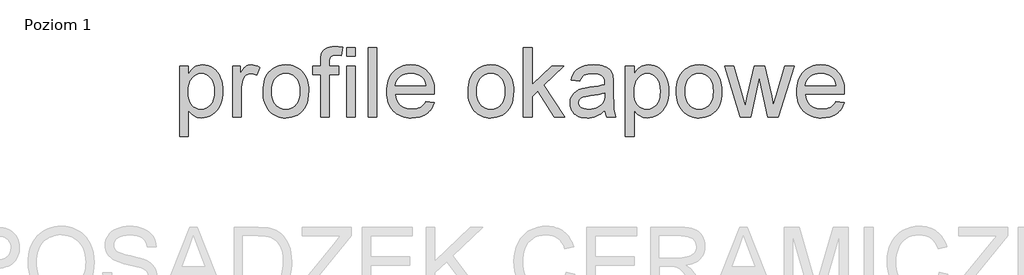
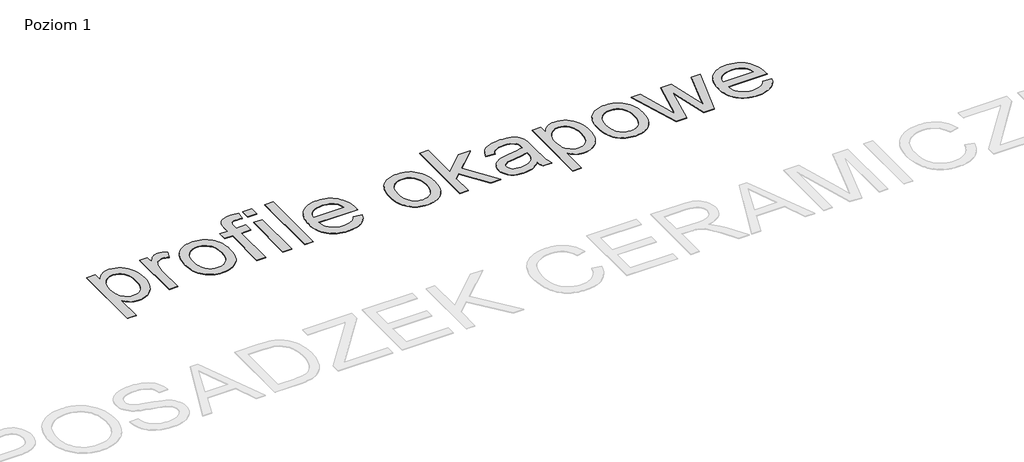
# One storey, part 3 of 4: 1 proxy.
"""IFC4 building model written with IfcOpenShell, lengths in millimetres."""

from ifc_helpers import new_model, si_unit, origin, origin_with_axes, place, context, project, spatial, polyline, outline, extrude, element, save

model = new_model("IFC4")

# Units and contexts
model_context = context("Model", 3, world=origin())
ifc_project = project(units=[si_unit("LENGTHUNIT", "METRE", prefix="MILLI")], contexts=[model_context])

# Site, building, storey
site = spatial("IfcSite", under=ifc_project)
building = spatial("IfcBuilding", under=site)
storey = spatial("IfcBuildingStorey", under=building, Name="Poziom 1", Elevation=0.0)

# Proxy
placement = place(None, origin())
element("IfcBuildingElementProxy", 1, Name="1500 mm Arial", ObjectType="1500 mm Arial", at=placement, inside=storey, context=model_context, shape_type="SweptSolid", body=[
    extrude(outline(polyline([(-108482.4896244, 72634.1293934), (-108482.4896244, 74164.5184934), (-108294.1340429, 74164.5184934), (-108294.1340429, 73979.8417318), (-108264.3356012, 74028.6435777), (-108232.6977497, 74070.9385108), (-108199.2204881, 74106.7265312), (-108163.9038166, 74136.0076387), (-108125.7360596, 74158.7818335), (-108083.7055416, 74175.0491155), (-108037.8122627, 74184.8094847), (-107988.0562229, 74188.062941), (-107922.3662941, 74183.5104014), (-107860.677082, 74169.8527823), (-107802.9885867, 74147.0900838), (-107749.300808, 74115.222306), (-107700.7863699, 74075.0771833), (-107658.6178962, 74027.4824502), (-107622.7953869, 73972.4381066), (-107593.318842, 73909.9441527), (-107570.3032247, 73842.1389025), (-107553.8634981, 73771.16067), (-107543.9996621, 73697.0094554), (-107540.7117167, 73619.6852585), (-107544.4250256, 73537.0152764), (-107555.5649523, 73458.5989299), (-107574.1314967, 73384.4362189), (-107600.124659, 73314.5271435), (-107633.1880533, 73250.6996173), (-107672.965294, 73194.7815541), (-107719.4563811, 73146.7729537), (-107772.6613147, 73106.6738162), (-107829.9704317, 73075.047461), (-107888.7740694, 73052.4572072), (-107949.0722277, 73038.9030549), (-108010.8649066, 73034.3850042), (-108055.3211464, 73037.4085343), (-108097.4551312, 73046.4791248), (-108137.2668608, 73061.5967755), (-108174.7563354, 73082.7614865), (-108209.4637024, 73108.5477151), (-108240.9291093, 73137.5299186), (-108269.1525561, 73169.7080968), (-108294.1340429, 73205.0822499), (-108294.1340429, 72634.1293934), (-108482.4896244, 72634.1293934)]), holes=[polyline([(-108294.1340429, 73602.3948047), (-108289.0411765, 73511.6199224), (-108273.7625774, 73433.5369689), (-108262.303628, 73399.2549655), (-108248.2982455, 73368.1459443), (-108231.7464298, 73340.2099053), (-108212.6481809, 73315.4468485), (-108169.7324469, 73274.8878585), (-108122.4711069, 73245.9171514), (-108070.8641607, 73228.5347271), (-108014.9116085, 73222.7405857), (-107958.1543144, 73228.7416608), (-107931.3535363, 73236.2430046), (-107905.6046707, 73246.7448859), (-107857.2626773, 73276.7502611), (-107813.1283342, 73318.7577864), (-107793.4265289, 73344.4118075), (-107776.351631, 73373.3652701), (-107761.9036404, 73405.6181744), (-107750.0825572, 73441.1705203), (-107740.8883814, 73480.0223079), (-107734.321113, 73522.1735372), (-107729.0672983, 73616.3743205), (-107734.1946536, 73706.3674536), (-107749.5767195, 73784.3124513), (-107761.1132689, 73818.7668995), (-107775.213496, 73850.2093137), (-107791.8774008, 73878.6396942), (-107811.1049832, 73904.0580408), (-107854.124184, 73945.9046177), (-107901.1441015, 73975.7950298), (-107952.1647357, 73993.7292771), (-108007.1860866, 73999.7073595), (-108035.0157847, 73998.1179943), (-108062.0349928, 73993.3498988), (-108088.2437109, 73985.4030729), (-108113.641939, 73974.2775166), (-108162.006925, 73942.490213), (-108207.129951, 73897.9879879), (-108227.521535, 73871.1182318), (-108245.1942412, 73841.3686495), (-108260.1480695, 73808.739241), (-108272.3830199, 73773.2300062), (-108281.8990924, 73734.8409452), (-108288.6962871, 73693.572058), (-108294.1340429, 73602.3948047)])]), origin_with_axes(), (0.0, 0.0, 1.0), 10.0),
    extrude(outline(polyline([(-107328.8116875, 73057.9294519), (-107328.8116875, 74164.5184934), (-107164.0005537, 74164.5184934), (-107164.0005537, 74000.8110055), (-107132.9605103, 74053.1422193), (-107103.1160835, 74095.7245603), (-107074.4672731, 74128.5580283), (-107047.0140792, 74151.6426235), (-107019.5149001, 74167.5765124), (-106990.7281339, 74178.9578617), (-106960.6537808, 74185.7866712), (-106929.2918407, 74188.062941), (-106882.5708274, 74184.4301063), (-106835.481932, 74173.5316022), (-106788.0251546, 74155.3674287), (-106740.2004952, 74129.9375858), (-106803.1083164, 73961.07975), (-106836.217696, 73977.9793292), (-106869.3270755, 73990.0504571), (-106902.4364551, 73997.2931339), (-106935.5458347, 73999.7073595), (-106964.413075, 73997.3851044), (-106991.7857947, 73990.4183391), (-107017.6639938, 73978.8070637), (-107042.0476723, 73962.551278), (-107064.0171252, 73942.1798125), (-107082.6526475, 73918.2214976), (-107097.9542392, 73890.6763332), (-107109.9219004, 73859.5443194), (-107123.2806153, 73808.1328105), (-107132.8225546, 73754.3300687), (-107138.5477181, 73698.136094), (-107140.456106, 73639.5508862), (-107140.456106, 73057.9294519), (-107328.8116875, 73057.9294519)])), origin_with_axes(), (0.0, 0.0, 1.0), 10.0),
    extrude(outline(polyline([(-106669.5671522, 73611.2239726), (-106667.020719, 73685.3579428), (-106659.3814194, 73754.5370024), (-106646.6492535, 73818.7611513), (-106628.8242212, 73878.0303896), (-106605.9063225, 73932.3447173), (-106577.8955575, 73981.7041344), (-106544.7919261, 74026.1086408), (-106506.5954283, 74065.5582367), (-106471.6351424, 74094.2702767), (-106434.812454, 74119.1540448), (-106396.1273629, 74140.2095409), (-106355.5798693, 74157.436765), (-106313.169973, 74170.835717), (-106268.8976742, 74180.406397), (-106222.7629727, 74186.148805), (-106174.7658686, 74188.062941), (-106121.5638092, 74185.7320637), (-106070.8507013, 74178.7394317), (-106022.6265451, 74167.0850451), (-105976.8913405, 74150.7689038), (-105933.6450875, 74129.7910078), (-105892.8877861, 74104.1513572), (-105854.6194364, 74073.8499519), (-105818.8400383, 74038.886792), (-105786.4635487, 73999.8137004), (-105758.4039243, 73957.1825001), (-105734.6611652, 73910.9931912), (-105715.2352714, 73861.2457736), (-105700.1262429, 73807.9402473), (-105689.3340797, 73751.0766123), (-105682.8587818, 73690.6548687), (-105680.7003491, 73626.6750164), (-105684.5171248, 73525.8523571), (-105695.9674519, 73436.3880544), (-105715.0513304, 73358.2821083), (-105741.7687603, 73291.5345188), (-105775.7863486, 73233.8805124), (-105816.7707021, 73183.0553155), (-105864.7218209, 73139.0589281), (-105919.639705, 73101.8913503), (-105979.3860403, 73072.3573239), (-106041.8225126, 73051.2615907), (-106106.9491221, 73038.6041508), (-106174.7658686, 73034.3850042), (-106228.8071589, 73036.7072593), (-106280.1985492, 73043.6740246), (-106328.9400395, 73055.2853), (-106375.0316298, 73071.5410857), (-106418.4733201, 73092.4413815), (-106459.2651103, 73117.9861876), (-106497.4070006, 73148.1755038), (-106532.8989909, 73183.0093302), (-106564.9305912, 73222.2117553), (-106592.6913115, 73265.5068676), (-106616.1811517, 73312.8946671), (-106635.4001118, 73364.3751538), (-106650.348192, 73419.9483277), (-106661.0253921, 73479.6141888), (-106667.4317121, 73543.3727371), (-106669.5671522, 73611.2239726)]), holes=[polyline([(-106481.2115706, 73611.5918546), (-106475.7623186, 73520.2306604), (-106468.9507535, 73479.1457141), (-106459.4145624, 73441.1245351), (-106447.1537453, 73406.1671233), (-106432.1683021, 73374.2734788), (-106414.458233, 73345.4436015), (-106394.0235378, 73319.6774914), (-106371.5252545, 73296.9579042), (-106347.6244211, 73277.2675952), (-106322.3210376, 73260.6065645), (-106295.6151041, 73246.9748121), (-106267.5066204, 73236.3723381), (-106237.9955866, 73228.7991423), (-106174.7658686, 73222.7405857), (-106111.8580475, 73228.8336313), (-106082.4734731, 73236.4499382), (-106054.4684562, 73247.1127679), (-106027.8429968, 73260.8221204), (-106002.5970949, 73277.5779956), (-105978.7307505, 73297.3803936), (-105956.2439635, 73320.2293144), (-105935.8092683, 73346.199484), (-105918.0991991, 73375.3656285), (-105903.113756, 73407.7277477), (-105890.8529389, 73443.2858418), (-105881.3167478, 73482.0399107), (-105874.5051827, 73523.9899545), (-105869.0559306, 73617.4779665), (-105874.5396716, 73705.9420901), (-105881.3943479, 73745.8889014), (-105890.9908946, 73782.9788791), (-105903.3293118, 73817.2120232), (-105918.4095996, 73848.5883337), (-105936.2317578, 73877.1078105), (-105956.7957865, 73902.7704538), (-106003.3213626, 73945.18035), (-106028.5758867, 73961.8413807), (-106055.158235, 73975.4731331), (-106083.0684073, 73986.0756072), (-106112.3064036, 73993.6488029), (-106174.7658686, 73999.7073595), (-106237.9955866, 73993.6717955), (-106267.5066204, 73986.1273406), (-106295.6151041, 73975.5651036), (-106322.3210376, 73961.9850846), (-106347.6244211, 73945.3872837), (-106371.5252545, 73925.7717007), (-106394.0235378, 73903.1383358), (-106414.458233, 73877.4584481), (-106432.1683021, 73848.7032968), (-106447.1537453, 73816.872882), (-106459.4145624, 73781.9672036), (-106468.9507535, 73743.9862617), (-106475.7623186, 73702.9300562), (-106481.2115706, 73611.5918546)])]), origin_with_axes(), (0.0, 0.0, 1.0), 10.0),
    extrude(outline(polyline([(-105421.7114245, 73057.9294519), (-105421.7114245, 73976.1629118), (-105586.5225584, 73976.1629118), (-105586.5225584, 74164.5184934), (-105421.7114245, 74164.5184934), (-105421.7114245, 74275.9867379), (-105416.7450176, 74368.2331482), (-105410.5370089, 74404.0786501), (-105401.8457968, 74433.0723498), (-105385.475048, 74466.020781), (-105363.9539513, 74495.7042595), (-105337.2825066, 74522.1227853), (-105305.460714, 74545.2763584), (-105267.7987948, 74564.107318), (-105223.6069701, 74577.5580034), (-105172.88524, 74585.6284147), (-105115.6336045, 74588.3185518), (-105033.8718311, 74583.1682039), (-104943.8327128, 74567.7171601), (-104971.4238624, 74391.1338024), (-105027.2499552, 74397.7556783), (-105079.949051, 74399.9629703), (-105118.818083, 74398.0085972), (-105151.5480843, 74392.1454779), (-105178.1390548, 74382.3736124), (-105198.5909944, 74368.6930007), (-105213.8006157, 74349.6781001), (-105224.6646308, 74323.9033678), (-105231.1830399, 74291.3688038), (-105233.355843, 74252.0744082), (-105233.355843, 74164.5184934), (-105021.4558138, 74164.5184934), (-105021.4558138, 73976.1629118), (-105233.355843, 73976.1629118), (-105233.355843, 73057.9294519), (-105421.7114245, 73057.9294519)])), origin_with_axes(), (0.0, 0.0, 1.0), 10.0),
    extrude(outline(polyline([(-104856.6446799, 73057.9294519), (-104856.6446799, 74164.5184934), (-104668.2890984, 74164.5184934), (-104668.2890984, 73057.9294519), (-104856.6446799, 73057.9294519)])), origin_with_axes(), (0.0, 0.0, 1.0), 10.0),
    extrude(outline(polyline([(-104856.6446799, 74376.4185226), (-104856.6446799, 74564.7741041), (-104668.2890984, 74564.7741041), (-104668.2890984, 74376.4185226), (-104856.6446799, 74376.4185226)])), origin_with_axes(), (0.0, 0.0, 1.0), 10.0),
    extrude(outline(polyline([(-104385.7557261, 73057.9294519), (-104385.7557261, 74564.7741041), (-104197.4001446, 74564.7741041), (-104197.4001446, 73057.9294519), (-104385.7557261, 73057.9294519)])), origin_with_axes(), (0.0, 0.0, 1.0), 10.0),
    extrude(outline(polyline([(-103140.1072904, 73387.5517195), (-102955.4305288, 73364.0072719), (-102983.7459462, 73290.0399982), (-103001.6198378, 73256.3500549), (-103021.9711847, 73224.8559072), (-103044.799987, 73195.5575552), (-103070.1062445, 73168.4549988), (-103097.8899574, 73143.5482381), (-103128.1511256, 73120.837273), (-103160.740297, 73100.5750225), (-103195.5080196, 73083.0144054), (-103232.4542934, 73068.1554217), (-103271.5791185, 73055.9980714), (-103356.364422, 73039.788271), (-103449.8639304, 73034.3850042), (-103509.8919253, 73036.7158815), (-103566.7354417, 73043.7085135), (-103620.3944796, 73055.3629001), (-103670.869039, 73071.6790414), (-103718.1591198, 73092.6569374), (-103762.2647221, 73118.296588), (-103803.185846, 73148.5979933), (-103840.9224912, 73183.5611532), (-103874.8078719, 73222.7319635), (-103904.1752018, 73265.6563197), (-103929.0244809, 73312.3342219), (-103949.3557093, 73362.7656701), (-103965.168887, 73416.9506643), (-103976.4640138, 73474.8892045), (-103983.24109, 73536.5812906), (-103985.5001153, 73602.0269227), (-103983.2180973, 73669.6999654), (-103976.3720433, 73733.4757581), (-103964.9619533, 73793.354301), (-103948.9878273, 73849.335594), (-103928.4496653, 73901.4196371), (-103903.3474673, 73949.6064303), (-103873.6812333, 73993.8959736), (-103839.4509633, 74034.2882671), (-103801.5821104, 74070.3292063), (-103761.0001278, 74101.5646869), (-103717.7050155, 74127.994709), (-103671.6967735, 74149.6192726), (-103622.9754017, 74166.4383775), (-103571.5409003, 74178.4520239), (-103517.3932691, 74185.6602118), (-103460.5325082, 74188.062941), (-103405.5312759, 74185.6659599), (-103353.0994693, 74178.4750166), (-103303.2370886, 74166.4901109), (-103255.9441337, 74149.7112431), (-103211.2206045, 74128.1384129), (-103169.0665012, 74101.7716206), (-103129.4818237, 74070.6108659), (-103092.466572, 74034.6561491), (-103058.9691919, 73994.3558261), (-103029.9381292, 73950.1582533), (-103005.3733838, 73902.0634306), (-102985.2749557, 73850.071358), (-102969.642845, 73794.1820355), (-102958.4770516, 73734.3954631), (-102951.7775756, 73670.7116409), (-102949.5444169, 73603.1305687), (-102950.6480629, 73552.3628534), (-103797.1445338, 73552.3628534), (-103786.2345334, 73477.1999632), (-103776.7357053, 73443.1191453), (-103764.540992, 73411.3720787), (-103749.6503934, 73381.9587636), (-103732.0639096, 73354.8791998), (-103711.7815405, 73330.1333875), (-103688.8032862, 73307.7213266), (-103637.1503548, 73270.5422525), (-103579.4963484, 73243.9857709), (-103515.8412669, 73228.051882), (-103446.1851104, 73222.7405857), (-103394.0838228, 73225.2007965), (-103345.9372667, 73232.5814291), (-103301.7454421, 73244.8824833), (-103261.5083488, 73262.1039592), (-103225.2259871, 73284.7057093), (-103192.8983567, 73313.147586), (-103164.5254579, 73347.4295894), (-103140.1072904, 73387.5517195)]), holes=[polyline([(-103797.1445338, 73740.7184349), (-103137.8999985, 73740.7184349), (-103147.5798935, 73794.015339), (-103163.3758266, 73840.2305146), (-103185.287798, 73879.3639618), (-103213.3158075, 73911.4156807), (-103238.1133532, 73932.1090429), (-103264.681331, 73950.0432902), (-103293.019741, 73965.2184225), (-103323.128583, 73977.6344398), (-103388.6575634, 73994.1891296), (-103461.2682722, 73999.7073595), (-103527.4985277, 73995.3042719), (-103588.2335458, 73982.095009), (-103643.4733266, 73960.0795709), (-103693.2178702, 73929.2579574), (-103734.9609803, 73891.0557115), (-103766.196461, 73846.8983758), (-103786.9243121, 73796.7859502), (-103797.1445338, 73740.7184349)])]), origin_with_axes(), (0.0, 0.0, 1.0), 10.0),
    extrude(outline(polyline([(-102219.6665385, 73611.2239726), (-102217.1201053, 73685.3579428), (-102209.4808058, 73754.5370024), (-102196.7486398, 73818.7611513), (-102178.9236075, 73878.0303896), (-102156.0057089, 73932.3447173), (-102127.9949438, 73981.7041344), (-102094.8913124, 74026.1086408), (-102056.6948146, 74065.5582367), (-102021.7345288, 74094.2702767), (-101984.9118403, 74119.1540448), (-101946.2267493, 74140.2095409), (-101905.6792556, 74157.436765), (-101863.2693594, 74170.835717), (-101818.9970605, 74180.406397), (-101772.862359, 74186.148805), (-101724.865255, 74188.062941), (-101671.6631955, 74185.7320637), (-101620.9500877, 74178.7394317), (-101572.7259314, 74167.0850451), (-101526.9907268, 74150.7689038), (-101483.7444738, 74129.7910078), (-101442.9871725, 74104.1513572), (-101404.7188228, 74073.8499519), (-101368.9394246, 74038.886792), (-101336.562935, 73999.8137004), (-101308.5033106, 73957.1825001), (-101284.7605515, 73910.9931912), (-101265.3346578, 73861.2457736), (-101250.2256292, 73807.9402473), (-101239.433466, 73751.0766123), (-101232.9581681, 73690.6548687), (-101230.7997355, 73626.6750164), (-101234.6165112, 73525.8523571), (-101246.0668383, 73436.3880544), (-101265.1507168, 73358.2821083), (-101291.8681467, 73291.5345188), (-101325.8857349, 73233.8805124), (-101366.8700884, 73183.0553155), (-101414.8212072, 73139.0589281), (-101469.7390913, 73101.8913503), (-101529.4854266, 73072.3573239), (-101591.921899, 73051.2615907), (-101657.0485084, 73038.6041508), (-101724.865255, 73034.3850042), (-101778.9065453, 73036.7072593), (-101830.2979355, 73043.6740246), (-101879.0394258, 73055.2853), (-101925.1310161, 73071.5410857), (-101968.5727064, 73092.4413815), (-102009.3644967, 73117.9861876), (-102047.506387, 73148.1755038), (-102082.9983773, 73183.0093302), (-102115.0299776, 73222.2117553), (-102142.7906978, 73265.5068676), (-102166.280538, 73312.8946671), (-102185.4994982, 73364.3751538), (-102200.4475783, 73419.9483277), (-102211.1247784, 73479.6141888), (-102217.5310985, 73543.3727371), (-102219.6665385, 73611.2239726)]), holes=[polyline([(-102031.310957, 73611.5918546), (-102025.8617049, 73520.2306604), (-102019.0501398, 73479.1457141), (-102009.5139487, 73441.1245351), (-101997.2531316, 73406.1671233), (-101982.2676885, 73374.2734788), (-101964.5576193, 73345.4436015), (-101944.1229241, 73319.6774914), (-101921.6246408, 73296.9579042), (-101897.7238075, 73277.2675952), (-101872.420424, 73260.6065645), (-101845.7144904, 73246.9748121), (-101817.6060067, 73236.3723381), (-101788.0949729, 73228.7991423), (-101724.865255, 73222.7405857), (-101661.9574338, 73228.8336313), (-101632.5728594, 73236.4499382), (-101604.5678426, 73247.1127679), (-101577.9423832, 73260.8221204), (-101552.6964812, 73277.5779956), (-101528.8301368, 73297.3803936), (-101506.3433498, 73320.2293144), (-101485.9086546, 73346.199484), (-101468.1985855, 73375.3656285), (-101453.2131423, 73407.7277477), (-101440.9523252, 73443.2858418), (-101431.4161341, 73482.0399107), (-101424.604569, 73523.9899545), (-101419.155317, 73617.4779665), (-101424.639058, 73705.9420901), (-101431.4937342, 73745.8889014), (-101441.090281, 73782.9788791), (-101453.4286982, 73817.2120232), (-101468.5089859, 73848.5883337), (-101486.3311441, 73877.1078105), (-101506.8951728, 73902.7704538), (-101553.4207489, 73945.18035), (-101578.6752731, 73961.8413807), (-101605.2576213, 73975.4731331), (-101633.1677936, 73986.0756072), (-101662.40579, 73993.6488029), (-101724.865255, 73999.7073595), (-101788.0949729, 73993.6717955), (-101817.6060067, 73986.1273406), (-101845.7144904, 73975.5651036), (-101872.420424, 73961.9850846), (-101897.7238075, 73945.3872837), (-101921.6246408, 73925.7717007), (-101944.1229241, 73903.1383358), (-101964.5576193, 73877.4584481), (-101982.2676885, 73848.7032968), (-101997.2531316, 73816.872882), (-102009.5139487, 73781.9672036), (-102019.0501398, 73743.9862617), (-102025.8617049, 73702.9300562), (-102031.310957, 73611.5918546)])]), origin_with_axes(), (0.0, 0.0, 1.0), 10.0),
    extrude(outline(polyline([(-101018.8997062, 73057.9294519), (-101018.8997062, 74564.7741041), (-100830.5441247, 74564.7741041), (-100830.5441247, 73755.0658327), (-100408.2155942, 74164.5184934), (-100147.7551417, 74164.5184934), (-100575.2340201, 73749.9154848), (-100124.210694, 73057.9294519), (-100344.2041271, 73057.9294519), (-100710.2467123, 73618.9494945), (-100830.5441247, 73502.330902), (-100830.5441247, 73057.9294519), (-101018.8997062, 73057.9294519)])), origin_with_axes(), (0.0, 0.0, 1.0), 10.0),
    extrude(outline(polyline([(-99253.0661294, 73199.196138), (-99297.7293029, 73157.2805832), (-99343.0592625, 73122.0328895), (-99389.0560082, 73093.453057), (-99435.71954, 73071.5410857), (-99483.5786883, 73055.2853), (-99533.1622835, 73043.6740246), (-99584.4703255, 73036.7072593), (-99637.5028143, 73034.3850042), (-99721.3684129, 73039.972212), (-99759.429829, 73046.9562217), (-99794.910323, 73056.7338354), (-99827.8098949, 73069.3050529), (-99858.1285446, 73084.6698744), (-99885.8662723, 73102.8282997), (-99911.0230778, 73123.780329), (-99933.3977757, 73146.9051613), (-99952.7891805, 73171.5819958), (-99969.1972923, 73197.8108324), (-99982.6221111, 73225.5916712), (-99993.0636368, 73254.9245121), (-100000.5218694, 73285.8093553), (-100006.4884555, 73352.235048), (-100004.2351783, 73392.1732371), (-99997.4753466, 73430.3180015), (-99986.2089605, 73466.6693411), (-99970.43602, 73501.2272561), (-99950.9957558, 73533.2329896), (-99928.7273988, 73561.9277853), (-99903.6309489, 73587.3116429), (-99875.7064062, 73609.3845626), (-99813.3963933, 73645.2530572), (-99743.820711, 73671.1887378), (-99676.0384533, 73685.6281061), (-99580.8489871, 73699.5156515), (-99477.2442202, 73713.7710788), (-99388.2627626, 73729.3140931), (-99313.9046143, 73746.1446943), (-99254.1697754, 73764.2628826), (-99253.0661294, 73806.2014301), (-99256.3080895, 73851.8647827), (-99266.0339697, 73890.262466), (-99282.2437701, 73921.3944798), (-99304.9374907, 73945.2608242), (-99344.1629084, 73969.0811834), (-99391.9415826, 73986.0957257), (-99448.2735131, 73996.3044511), (-99513.1587, 73999.7073595), (-99573.4913472, 73997.442586), (-99625.3627085, 73990.6482654), (-99668.7727839, 73979.3243977), (-99703.7215735, 73963.470983), (-99732.4393617, 73941.8464195), (-99757.1564333, 73913.2091054), (-99777.8727881, 73877.5590408), (-99794.5884263, 73834.8962257), (-99982.9440078, 73858.4406734), (-99968.6081063, 73912.7032677), (-99950.2484955, 73961.447632), (-99927.8651754, 74004.6737665), (-99901.4581459, 74042.381671), (-99869.8892722, 74075.3301022), (-99832.0204193, 74104.2778166), (-99787.8515873, 74129.2248144), (-99737.382776, 74150.1710955), (-99681.6371575, 74166.748778), (-99621.6379033, 74178.5899797), (-99557.3850136, 74185.6947007), (-99488.8784883, 74188.062941), (-99421.9124689, 74185.9706122), (-99361.5453327, 74179.6936257), (-99307.7770799, 74169.2319814), (-99260.6077103, 74154.5856795), (-99219.6463494, 74136.7778917), (-99184.5021225, 74116.8317897), (-99155.1750297, 74094.7473737), (-99131.665071, 74070.5246436), (-99112.6041851, 74043.5657911), (-99096.6243109, 74013.2730081), (-99083.7254485, 73979.6462945), (-99073.9075977, 73942.6856503), (-99067.0098103, 73877.5705371), (-99064.7105479, 73777.8745164), (-99064.7105479, 73543.5336855), (-99062.3193149, 73339.4051634), (-99055.145616, 73216.3026508), (-99040.9821592, 73135.4145971), (-99017.6216525, 73057.9294519), (-99205.977234, 73057.9294519), (-99222.7158648, 73089.3833625), (-99236.1435576, 73123.412447), (-99246.2603125, 73160.0167055), (-99253.0661294, 73199.196138)]), holes=[polyline([(-99253.0661294, 73575.9073011), (-99309.9958681, 73559.6055302), (-99379.6175357, 73544.545361), (-99556.9366574, 73518.1498278), (-99654.6553124, 73503.7104595), (-99718.9886763, 73487.6156222), (-99761.15715, 73466.738319), (-99778.1372033, 73453.3336188), (-99792.3811343, 73437.9515529), (-99803.6475204, 73421.1439442), (-99811.6949391, 73403.4626158), (-99816.5233902, 73384.9075677), (-99818.132874, 73365.4787998), (-99814.6264987, 73336.2091886), (-99804.1073729, 73309.4687661), (-99786.5754966, 73285.2575323), (-99762.0308697, 73263.5754872), (-99730.7034186, 73245.7102178), (-99692.8230694, 73232.9493111), (-99648.3898221, 73225.292767), (-99597.4036769, 73222.7405857), (-99545.3483746, 73225.5571822), (-99496.2361282, 73234.0069718), (-99450.0669378, 73248.0899544), (-99406.8408034, 73267.8061301), (-99367.8453119, 73291.5230225), (-99334.3680503, 73317.6081552), (-99306.4090187, 73346.0615283), (-99283.968217, 73376.8831417), (-99270.9313988, 73404.4742913), (-99261.6193858, 73437.9515529), (-99256.032178, 73477.3149264), (-99254.1697754, 73522.5644118), (-99253.0661294, 73575.9073011)])]), origin_with_axes(), (0.0, 0.0, 1.0), 10.0),
    extrude(outline(polyline([(-98805.7216233, 72634.1293934), (-98805.7216233, 74164.5184934), (-98617.3660417, 74164.5184934), (-98617.3660417, 73979.8417318), (-98587.5676001, 74028.6435777), (-98555.9297485, 74070.9385108), (-98522.452487, 74106.7265312), (-98487.1358154, 74136.0076387), (-98448.9680584, 74158.7818335), (-98406.9375405, 74175.0491155), (-98361.0442616, 74184.8094847), (-98311.2882217, 74188.062941), (-98245.598293, 74183.5104014), (-98183.9090809, 74169.8527823), (-98126.2205855, 74147.0900838), (-98072.5328069, 74115.222306), (-98024.0183688, 74075.0771833), (-97981.8498951, 74027.4824502), (-97946.0273858, 73972.4381066), (-97916.5508409, 73909.9441527), (-97893.5352236, 73842.1389025), (-97877.0954969, 73771.16067), (-97867.2316609, 73697.0094554), (-97863.9437156, 73619.6852585), (-97867.6570245, 73537.0152764), (-97878.7969512, 73458.5989299), (-97897.3634956, 73384.4362189), (-97923.3566578, 73314.5271435), (-97956.4200521, 73250.6996173), (-97996.1972929, 73194.7815541), (-98042.68838, 73146.7729537), (-98095.8933136, 73106.6738162), (-98153.2024306, 73075.047461), (-98212.0060683, 73052.4572072), (-98272.3042266, 73038.9030549), (-98334.0969054, 73034.3850042), (-98378.5531453, 73037.4085343), (-98420.68713, 73046.4791248), (-98460.4988597, 73061.5967755), (-98497.9883343, 73082.7614865), (-98532.6957013, 73108.5477151), (-98564.1611082, 73137.5299186), (-98592.384555, 73169.7080968), (-98617.3660417, 73205.0822499), (-98617.3660417, 72634.1293934), (-98805.7216233, 72634.1293934)]), holes=[polyline([(-98617.3660417, 73602.3948047), (-98612.2731754, 73511.6199224), (-98596.9945762, 73433.5369689), (-98585.5356269, 73399.2549655), (-98571.5302444, 73368.1459443), (-98554.9784287, 73340.2099053), (-98535.8801798, 73315.4468485), (-98492.9644458, 73274.8878585), (-98445.7031057, 73245.9171514), (-98394.0961596, 73228.5347271), (-98338.1436074, 73222.7405857), (-98281.3863133, 73228.7416608), (-98254.5855351, 73236.2430046), (-98228.8366696, 73246.7448859), (-98180.4946761, 73276.7502611), (-98136.360333, 73318.7577864), (-98116.6585277, 73344.4118075), (-98099.5836298, 73373.3652701), (-98085.1356393, 73405.6181744), (-98073.3145561, 73441.1705203), (-98064.1203803, 73480.0223079), (-98057.5531119, 73522.1735372), (-98052.2992971, 73616.3743205), (-98057.4266524, 73706.3674536), (-98072.8087184, 73784.3124513), (-98084.3452678, 73818.7668995), (-98098.4454949, 73850.2093137), (-98115.1093997, 73878.6396942), (-98134.3369821, 73904.0580408), (-98177.3561829, 73945.9046177), (-98224.3761004, 73975.7950298), (-98275.3967346, 73993.7292771), (-98330.4180855, 73999.7073595), (-98358.2477836, 73998.1179943), (-98385.2669917, 73993.3498988), (-98411.4757098, 73985.4030729), (-98436.8739378, 73974.2775166), (-98485.2389239, 73942.490213), (-98530.3619499, 73897.9879879), (-98550.7535339, 73871.1182318), (-98568.4262401, 73841.3686495), (-98583.3800683, 73808.739241), (-98595.6150188, 73773.2300062), (-98605.1310913, 73734.8409452), (-98611.928286, 73693.572058), (-98617.3660417, 73602.3948047)])]), origin_with_axes(), (0.0, 0.0, 1.0), 10.0),
    extrude(outline(polyline([(-97699.1325818, 73611.2239726), (-97696.5861486, 73685.3579428), (-97688.946849, 73754.5370024), (-97676.2146831, 73818.7611513), (-97658.3896508, 73878.0303896), (-97635.4717521, 73932.3447173), (-97607.4609871, 73981.7041344), (-97574.3573557, 74026.1086408), (-97536.1608579, 74065.5582367), (-97501.200572, 74094.2702767), (-97464.3778836, 74119.1540448), (-97425.6927925, 74140.2095409), (-97385.1452989, 74157.436765), (-97342.7354026, 74170.835717), (-97298.4631038, 74180.406397), (-97252.3284023, 74186.148805), (-97204.3312982, 74188.062941), (-97151.1292388, 74185.7320637), (-97100.4161309, 74178.7394317), (-97052.1919747, 74167.0850451), (-97006.4567701, 74150.7689038), (-96963.2105171, 74129.7910078), (-96922.4532158, 74104.1513572), (-96884.184866, 74073.8499519), (-96848.4054679, 74038.886792), (-96816.0289783, 73999.8137004), (-96787.9693539, 73957.1825001), (-96764.2265948, 73910.9931912), (-96744.800701, 73861.2457736), (-96729.6916725, 73807.9402473), (-96718.8995093, 73751.0766123), (-96712.4242114, 73690.6548687), (-96710.2657787, 73626.6750164), (-96714.0825544, 73525.8523571), (-96725.5328815, 73436.3880544), (-96744.61676, 73358.2821083), (-96771.3341899, 73291.5345188), (-96805.3517782, 73233.8805124), (-96846.3361317, 73183.0553155), (-96894.2872505, 73139.0589281), (-96949.2051346, 73101.8913503), (-97008.9514699, 73072.3573239), (-97071.3879422, 73051.2615907), (-97136.5145517, 73038.6041508), (-97204.3312982, 73034.3850042), (-97258.3725885, 73036.7072593), (-97309.7639788, 73043.6740246), (-97358.5054691, 73055.2853), (-97404.5970594, 73071.5410857), (-97448.0387497, 73092.4413815), (-97488.83054, 73117.9861876), (-97526.9724303, 73148.1755038), (-97562.4644206, 73183.0093302), (-97594.4960208, 73222.2117553), (-97622.2567411, 73265.5068676), (-97645.7465813, 73312.8946671), (-97664.9655415, 73364.3751538), (-97679.9136216, 73419.9483277), (-97690.5908217, 73479.6141888), (-97696.9971417, 73543.3727371), (-97699.1325818, 73611.2239726)]), holes=[polyline([(-97510.7770002, 73611.5918546), (-97505.3277482, 73520.2306604), (-97498.5161831, 73479.1457141), (-97488.979992, 73441.1245351), (-97476.7191749, 73406.1671233), (-97461.7337317, 73374.2734788), (-97444.0236626, 73345.4436015), (-97423.5889674, 73319.6774914), (-97401.0906841, 73296.9579042), (-97377.1898507, 73277.2675952), (-97351.8864673, 73260.6065645), (-97325.1805337, 73246.9748121), (-97297.07205, 73236.3723381), (-97267.5610162, 73228.7991423), (-97204.3312982, 73222.7405857), (-97141.4234771, 73228.8336313), (-97112.0389027, 73236.4499382), (-97084.0338858, 73247.1127679), (-97057.4084264, 73260.8221204), (-97032.1625245, 73277.5779956), (-97008.2961801, 73297.3803936), (-96985.8093931, 73320.2293144), (-96965.3746979, 73346.199484), (-96947.6646287, 73375.3656285), (-96932.6791856, 73407.7277477), (-96920.4183685, 73443.2858418), (-96910.8821774, 73482.0399107), (-96904.0706123, 73523.9899545), (-96898.6213603, 73617.4779665), (-96904.1051012, 73705.9420901), (-96910.9597775, 73745.8889014), (-96920.5563242, 73782.9788791), (-96932.8947414, 73817.2120232), (-96947.9750292, 73848.5883337), (-96965.7971874, 73877.1078105), (-96986.3612161, 73902.7704538), (-97032.8867922, 73945.18035), (-97058.1413163, 73961.8413807), (-97084.7236646, 73975.4731331), (-97112.6338369, 73986.0756072), (-97141.8718333, 73993.6488029), (-97204.3312982, 73999.7073595), (-97267.5610162, 73993.6717955), (-97297.07205, 73986.1273406), (-97325.1805337, 73975.5651036), (-97351.8864673, 73961.9850846), (-97377.1898507, 73945.3872837), (-97401.0906841, 73925.7717007), (-97423.5889674, 73903.1383358), (-97444.0236626, 73877.4584481), (-97461.7337317, 73848.7032968), (-97476.7191749, 73816.872882), (-97488.979992, 73781.9672036), (-97498.5161831, 73743.9862617), (-97505.3277482, 73702.9300562), (-97510.7770002, 73611.5918546)])]), origin_with_axes(), (0.0, 0.0, 1.0), 10.0),
    extrude(outline(polyline([(-96314.7926339, 73057.9294519), (-96651.4046595, 74164.5184934), (-96455.6914381, 74164.5184934), (-96264.7606826, 73518.8855918), (-96207.7389733, 73288.2235808), (-96161.0179599, 73510.4243059), (-96009.0826959, 74164.5184934), (-95784.6746789, 74164.5184934), (-95633.4751788, 73512.2637159), (-95591.9045134, 73311.0322645), (-95532.3076302, 73523.3001758), (-95341.0089927, 74164.5184934), (-95144.5600073, 74164.5184934), (-95483.7472068, 73057.9294519), (-95711.4661618, 73057.9294519), (-95856.0437859, 73706.8732914), (-95897.9823334, 73909.2083887), (-96084.4985049, 73057.9294519), (-96314.7926339, 73057.9294519)])), origin_with_axes(), (0.0, 0.0, 1.0), 10.0),
    extrude(outline(polyline([(-94240.3060631, 73387.5517195), (-94055.6293015, 73364.0072719), (-94083.9447188, 73290.0399982), (-94101.8186105, 73256.3500549), (-94122.1699574, 73224.8559072), (-94144.9987597, 73195.5575552), (-94170.3050172, 73168.4549988), (-94198.0887301, 73143.5482381), (-94228.3498983, 73120.837273), (-94260.9390697, 73100.5750225), (-94295.7067923, 73083.0144054), (-94332.6530661, 73068.1554217), (-94371.7778911, 73055.9980714), (-94456.5631947, 73039.788271), (-94550.062703, 73034.3850042), (-94610.090698, 73036.7158815), (-94666.9342144, 73043.7085135), (-94720.5932523, 73055.3629001), (-94771.0678116, 73071.6790414), (-94818.3578925, 73092.6569374), (-94862.4634948, 73118.296588), (-94903.3846186, 73148.5979933), (-94941.1212639, 73183.5611532), (-94975.0066446, 73222.7319635), (-95004.3739745, 73265.6563197), (-95029.2232536, 73312.3342219), (-95049.554482, 73362.7656701), (-95065.3676596, 73416.9506643), (-95076.6627865, 73474.8892045), (-95083.4398626, 73536.5812906), (-95085.698888, 73602.0269227), (-95083.41687, 73669.6999654), (-95076.570816, 73733.4757581), (-95065.160726, 73793.354301), (-95049.1866, 73849.335594), (-95028.648438, 73901.4196371), (-95003.54624, 73949.6064303), (-94973.880006, 73993.8959736), (-94939.6497359, 74034.2882671), (-94901.7808831, 74070.3292063), (-94861.1989005, 74101.5646869), (-94817.9037882, 74127.994709), (-94771.8955461, 74149.6192726), (-94723.1741744, 74166.4383775), (-94671.739673, 74178.4520239), (-94617.5920418, 74185.6602118), (-94560.7312809, 74188.062941), (-94505.7300485, 74185.6659599), (-94453.298242, 74178.4750166), (-94403.4358613, 74166.4901109), (-94356.1429063, 74149.7112431), (-94311.4193772, 74128.1384129), (-94269.2652739, 74101.7716206), (-94229.6805964, 74070.6108659), (-94192.6653447, 74034.6561491), (-94159.1679646, 73994.3558261), (-94130.1369019, 73950.1582533), (-94105.5721565, 73902.0634306), (-94085.4737284, 73850.071358), (-94069.8416177, 73794.1820355), (-94058.6758243, 73734.3954631), (-94051.9763483, 73670.7116409), (-94049.7431896, 73603.1305687), (-94050.8468356, 73552.3628534), (-94897.3433065, 73552.3628534), (-94886.4333061, 73477.1999632), (-94876.934478, 73443.1191453), (-94864.7397647, 73411.3720787), (-94849.8491661, 73381.9587636), (-94832.2626823, 73354.8791998), (-94811.9803132, 73330.1333875), (-94789.0020589, 73307.7213266), (-94737.3491275, 73270.5422525), (-94679.6951211, 73243.9857709), (-94616.0400396, 73228.051882), (-94546.3838831, 73222.7405857), (-94494.2825955, 73225.2007965), (-94446.1360394, 73232.5814291), (-94401.9442147, 73244.8824833), (-94361.7071215, 73262.1039592), (-94325.4247597, 73284.7057093), (-94293.0971294, 73313.147586), (-94264.7242305, 73347.4295894), (-94240.3060631, 73387.5517195)]), holes=[polyline([(-94897.3433065, 73740.7184349), (-94238.0987711, 73740.7184349), (-94247.7786661, 73794.015339), (-94263.5745993, 73840.2305146), (-94285.4865706, 73879.3639618), (-94313.5145801, 73911.4156807), (-94338.3121259, 73932.1090429), (-94364.8801037, 73950.0432902), (-94393.2185137, 73965.2184225), (-94423.3273557, 73977.6344398), (-94488.8563361, 73994.1891296), (-94561.4670449, 73999.7073595), (-94627.6973003, 73995.3042719), (-94688.4323185, 73982.095009), (-94743.6720993, 73960.0795709), (-94793.4166429, 73929.2579574), (-94835.159753, 73891.0557115), (-94866.3952336, 73846.8983758), (-94887.1230848, 73796.7859502), (-94897.3433065, 73740.7184349)])]), origin_with_axes(), (0.0, 0.0, 1.0), 10.0),
])

save(model, "model.ifc")
